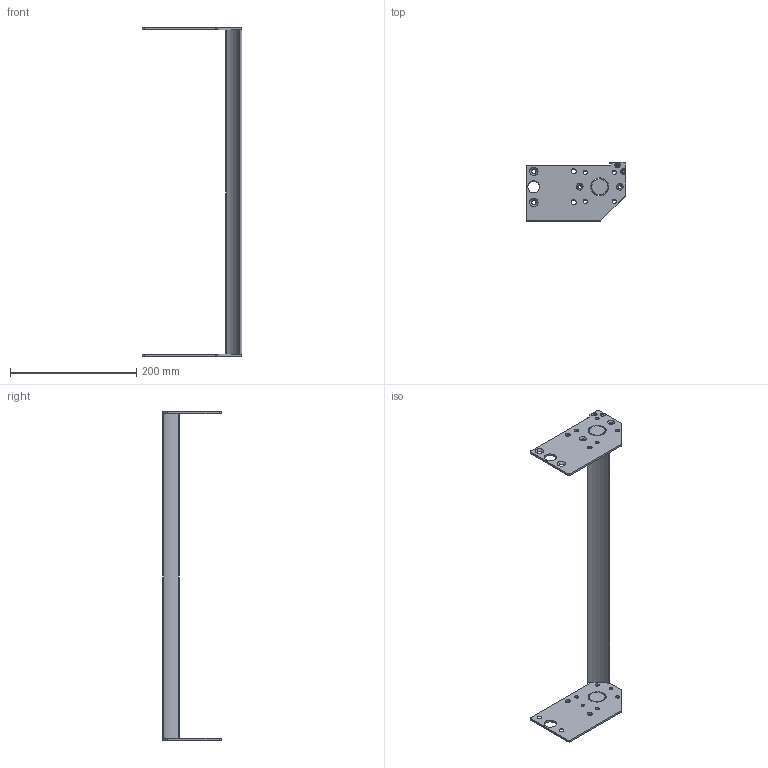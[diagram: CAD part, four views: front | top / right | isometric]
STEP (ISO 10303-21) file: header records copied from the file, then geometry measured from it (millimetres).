
FILE_DESCRIPTION((''),'2;1');
FILE_NAME('27M3300-20_ASM','2018-12-13T',('james.horst'),(''),'PRO/ENGINEER BY PARAMETRIC TECHNOLOGY CORPORATION, 2012420','PRO/ENGINEER BY PARAMETRIC TECHNOLOGY CORPORATION, 2012420','');
FILE_SCHEMA(('CONFIG_CONTROL_DESIGN'));
Length unit declared in the file: inch
Products named in the file (5): 350540_1; 350539-20; 930410M_1; 350541_1; 27M3300-20_ASM
Assembly tree (7 placements, depth 2):
  27M3300-20_ASM
    350540_1
    350539-20
    930410M_1  x4
    350541_1
Bounding box: 157.96 x 92.74 x 520.34 mm (x, y, z)
Volume: 223402.2 mm3; surface area: 113850.6 mm2
Topology: 7 solids, 11 shells, 206 faces, 556 edges, 368 vertices
Faces by surface type: cylinder 96, plane 70, cone 40
Entity records: 5489 total; most frequent: DIRECTION 1004, CARTESIAN_POINT 938, ORIENTED_EDGE 868, EDGE_CURVE 442, AXIS2_PLACEMENT_3D 399, VERTEX_POINT 296, CIRCLE 230, EDGE_LOOP 220
